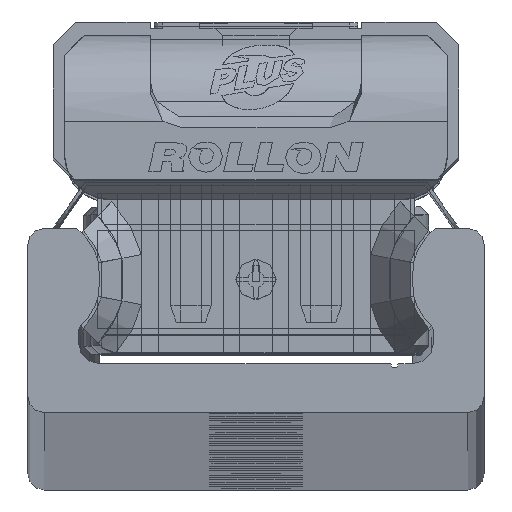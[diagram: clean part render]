
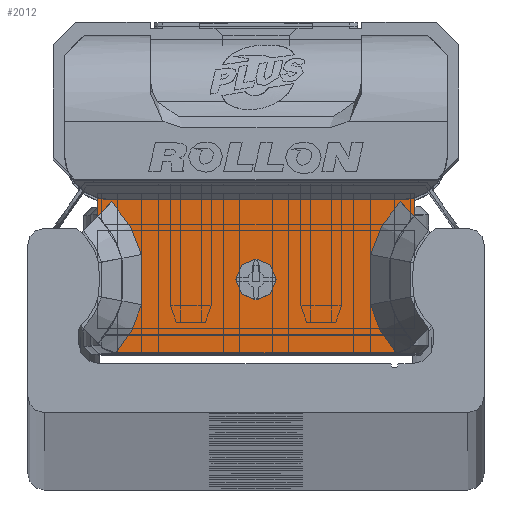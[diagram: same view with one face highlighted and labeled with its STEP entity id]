
A CAD part, top view. The second image highlights one B-rep face of the part: STEP entity #2012.
In plain terms, the highlighted planar face has unit normal (0, 0, 1) as drawn and (0, 0, -1) by its records, which use the part's own axes.
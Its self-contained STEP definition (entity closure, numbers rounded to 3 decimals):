
#2012 = ADVANCED_FACE( '', ( #4310, #4311 ), #4312, .F. );
#4310 = FACE_BOUND( '', #6803, .T. );
#4311 = FACE_OUTER_BOUND( '', #6804, .T. );
#4312 = PLANE( '', #6805 );
#6803 = EDGE_LOOP( '', ( #12165 ) );
#6804 = EDGE_LOOP( '', ( #12166, #12167, #12168, #12169, #12170, #12171, #12172, #12173, #12174, #12175, #12176, #12177, #12178, #12179 ) );
#6805 = AXIS2_PLACEMENT_3D( '', #12180, #12181, #12182 );
#12165 = ORIENTED_EDGE( '', *, *, #14686, .T. );
#12166 = ORIENTED_EDGE( '', *, *, #13447, .F. );
#12167 = ORIENTED_EDGE( '', *, *, #13148, .T. );
#12168 = ORIENTED_EDGE( '', *, *, #13653, .T. );
#12169 = ORIENTED_EDGE( '', *, *, #14190, .T. );
#12170 = ORIENTED_EDGE( '', *, *, #14344, .T. );
#12171 = ORIENTED_EDGE( '', *, *, #15259, .T. );
#12172 = ORIENTED_EDGE( '', *, *, #14087, .T. );
#12173 = ORIENTED_EDGE( '', *, *, #13676, .T. );
#12174 = ORIENTED_EDGE( '', *, *, #15141, .T. );
#12175 = ORIENTED_EDGE( '', *, *, #15074, .T. );
#12176 = ORIENTED_EDGE( '', *, *, #14236, .T. );
#12177 = ORIENTED_EDGE( '', *, *, #15054, .T. );
#12178 = ORIENTED_EDGE( '', *, *, #14155, .T. );
#12179 = ORIENTED_EDGE( '', *, *, #15221, .T. );
#12180 = CARTESIAN_POINT( '', ( 9.7, 4.89, -10.6 ) );
#12181 = DIRECTION( '', ( 0., 0., 1. ) );
#12182 = DIRECTION( '', ( 1., 0., 0. ) );
#13148 = EDGE_CURVE( '', #15467, #15465, #15468, .T. );
#13447 = EDGE_CURVE( '', #15467, #15993, #15994, .T. );
#13653 = EDGE_CURVE( '', #15465, #16358, #16360, .T. );
#13676 = EDGE_CURVE( '', #16397, #16395, #16398, .T. );
#14087 = EDGE_CURVE( '', #17065, #16397, #17066, .T. );
#14155 = EDGE_CURVE( '', #17170, #17171, #17172, .T. );
#14190 = EDGE_CURVE( '', #16358, #17223, #17225, .T. );
#14236 = EDGE_CURVE( '', #17290, #17298, #17300, .T. );
#14344 = EDGE_CURVE( '', #17223, #17449, #17450, .T. );
#14686 = EDGE_CURVE( '', #17950, #17950, #17951, .T. );
#15054 = EDGE_CURVE( '', #17298, #17170, #18434, .T. );
#15074 = EDGE_CURVE( '', #16583, #17290, #18458, .T. );
#15141 = EDGE_CURVE( '', #16395, #16583, #18538, .T. );
#15221 = EDGE_CURVE( '', #17171, #15993, #18626, .T. );
#15259 = EDGE_CURVE( '', #17449, #17065, #18671, .T. );
#15465 = VERTEX_POINT( '', #18897 );
#15467 = VERTEX_POINT( '', #18900 );
#15468 = CIRCLE( '', #18901, 2.8 );
#15993 = VERTEX_POINT( '', #19628 );
#15994 = LINE( '', #19629, #19630 );
#16358 = VERTEX_POINT( '', #20187 );
#16360 = LINE( '', #20190, #20191 );
#16395 = VERTEX_POINT( '', #20235 );
#16397 = VERTEX_POINT( '', #20238 );
#16398 = B_SPLINE_CURVE_WITH_KNOTS( '', 2, ( #20239, #20240, #20241 ), .UNSPECIFIED., .F., .F., ( 3, 3 ), ( 0., 1. ), .UNSPECIFIED. );
#16583 = VERTEX_POINT( '', #20505 );
#17065 = VERTEX_POINT( '', #21143 );
#17066 = B_SPLINE_CURVE_WITH_KNOTS( '', 2, ( #21144, #21145, #21146, #21147, #21148 ), .UNSPECIFIED., .F., .F., ( 3, 2, 3 ), ( 0., 0.5, 1. ), .UNSPECIFIED. );
#17170 = VERTEX_POINT( '', #21308 );
#17171 = VERTEX_POINT( '', #21309 );
#17172 = B_SPLINE_CURVE_WITH_KNOTS( '', 2, ( #21310, #21311, #21312 ), .UNSPECIFIED., .F., .F., ( 3, 3 ), ( 0., 1. ), .UNSPECIFIED. );
#17223 = VERTEX_POINT( '', #21378 );
#17225 = CIRCLE( '', #21381, 2.8 );
#17290 = VERTEX_POINT( '', #21459 );
#17298 = VERTEX_POINT( '', #21479 );
#17300 = B_SPLINE_CURVE_WITH_KNOTS( '', 2, ( #21482, #21483, #21484 ), .UNSPECIFIED., .F., .F., ( 3, 3 ), ( 0.1, 1. ), .UNSPECIFIED. );
#17449 = VERTEX_POINT( '', #21712 );
#17450 = LINE( '', #21713, #21714 );
#17950 = VERTEX_POINT( '', #22438 );
#17951 = CIRCLE( '', #22439, 1.25 );
#18434 = B_SPLINE_CURVE_WITH_KNOTS( '', 2, ( #23109, #23110, #23111 ), .UNSPECIFIED., .F., .F., ( 3, 3 ), ( 0., 1. ), .UNSPECIFIED. );
#18458 = LINE( '', #23140, #23141 );
#18538 = B_SPLINE_CURVE_WITH_KNOTS( '', 2, ( #23244, #23245, #23246 ), .UNSPECIFIED., .F., .F., ( 3, 3 ), ( 0., 1. ), .UNSPECIFIED. );
#18626 = LINE( '', #23366, #23367 );
#18671 = LINE( '', #23448, #23449 );
#18897 = CARTESIAN_POINT( '', ( -8.95, 4.51, -10.6 ) );
#18900 = CARTESIAN_POINT( '', ( -9.7, 4.612, -10.6 ) );
#18901 = AXIS2_PLACEMENT_3D( '', #23709, #23710, #23711 );
#19628 = CARTESIAN_POINT( '', ( -9.7, 3.494, -10.6 ) );
#19629 = CARTESIAN_POINT( '', ( -9.7, 4.89, -10.6 ) );
#19630 = VECTOR( '', #24117, 1000. );
#20187 = CARTESIAN_POINT( '', ( 8.95, 4.51, -10.6 ) );
#20190 = CARTESIAN_POINT( '', ( 9.7, 4.51, -10.6 ) );
#20191 = VECTOR( '', #24481, 1000. );
#20235 = CARTESIAN_POINT( '', ( 7.031, -1.944, -10.6 ) );
#20238 = CARTESIAN_POINT( '', ( 7.031, 1.144, -10.6 ) );
#20239 = CARTESIAN_POINT( '', ( 7.031, 1.144, -10.6 ) );
#20240 = CARTESIAN_POINT( '', ( 6.929, -0.4, -10.6 ) );
#20241 = CARTESIAN_POINT( '', ( 7.031, -1.944, -10.6 ) );
#20505 = CARTESIAN_POINT( '', ( 8.59, -4.893, -10.6 ) );
#21143 = CARTESIAN_POINT( '', ( 8.853, 4.366, -10.6 ) );
#21144 = CARTESIAN_POINT( '', ( 8.853, 4.366, -10.6 ) );
#21145 = CARTESIAN_POINT( '', ( 8.182, 3.708, -10.6 ) );
#21146 = CARTESIAN_POINT( '', ( 7.715, 2.883, -10.6 ) );
#21147 = CARTESIAN_POINT( '', ( 7.249, 2.058, -10.6 ) );
#21148 = CARTESIAN_POINT( '', ( 7.031, 1.144, -10.6 ) );
#21308 = CARTESIAN_POINT( '', ( -7.031, 1.144, -10.6 ) );
#21309 = CARTESIAN_POINT( '', ( -8.853, 4.366, -10.6 ) );
#21310 = CARTESIAN_POINT( '', ( -7.031, 1.144, -10.6 ) );
#21311 = CARTESIAN_POINT( '', ( -7.477, 3.018, -10.6 ) );
#21312 = CARTESIAN_POINT( '', ( -8.853, 4.366, -10.6 ) );
#21378 = CARTESIAN_POINT( '', ( 9.7, 4.612, -10.6 ) );
#21381 = AXIS2_PLACEMENT_3D( '', #25200, #25201, #25202 );
#21459 = CARTESIAN_POINT( '', ( -8.59, -4.893, -10.6 ) );
#21479 = CARTESIAN_POINT( '', ( -7.031, -1.944, -10.6 ) );
#21482 = CARTESIAN_POINT( '', ( -8.587, -4.89, -10.6 ) );
#21483 = CARTESIAN_POINT( '', ( -7.432, -3.63, -10.6 ) );
#21484 = CARTESIAN_POINT( '', ( -7.031, -1.944, -10.6 ) );
#21712 = CARTESIAN_POINT( '', ( 9.7, 3.497, -10.6 ) );
#21713 = CARTESIAN_POINT( '', ( 9.7, 4.89, -10.6 ) );
#21714 = VECTOR( '', #25388, 1000. );
#22438 = CARTESIAN_POINT( '', ( 1.25, -0.39, -10.6 ) );
#22439 = AXIS2_PLACEMENT_3D( '', #25839, #25840, #25841 );
#23109 = CARTESIAN_POINT( '', ( -7.031, -1.944, -10.6 ) );
#23110 = CARTESIAN_POINT( '', ( -6.929, -0.4, -10.6 ) );
#23111 = CARTESIAN_POINT( '', ( -7.031, 1.144, -10.6 ) );
#23140 = CARTESIAN_POINT( '', ( 9.7, -4.89, -10.6 ) );
#23141 = VECTOR( '', #26247, 1000. );
#23244 = CARTESIAN_POINT( '', ( 7.031, -1.944, -10.6 ) );
#23245 = CARTESIAN_POINT( '', ( 7.429, -3.615, -10.6 ) );
#23246 = CARTESIAN_POINT( '', ( 8.588, -4.89, -10.6 ) );
#23366 = CARTESIAN_POINT( '', ( -8.853, 4.366, -10.6 ) );
#23367 = VECTOR( '', #26390, 1000. );
#23448 = CARTESIAN_POINT( '', ( 9.7, 3.501, -10.6 ) );
#23449 = VECTOR( '', #26417, 1000. );
#23709 = CARTESIAN_POINT( '', ( -8.95, 7.31, -10.6 ) );
#23710 = DIRECTION( '', ( 0., 0., 1. ) );
#23711 = DIRECTION( '', ( 1., 0., 0. ) );
#24117 = DIRECTION( '', ( 0., -1., 0. ) );
#24481 = DIRECTION( '', ( 1., 0., 0. ) );
#25200 = CARTESIAN_POINT( '', ( 8.95, 7.31, -10.6 ) );
#25201 = DIRECTION( '', ( 0., 0., 1. ) );
#25202 = DIRECTION( '', ( 1., 0., 0. ) );
#25388 = DIRECTION( '', ( 0., -1., 0. ) );
#25839 = CARTESIAN_POINT( '', ( 0., -0.39, -10.6 ) );
#25840 = DIRECTION( '', ( 0., 0., 1. ) );
#25841 = DIRECTION( '', ( 1., 0., 0. ) );
#26247 = DIRECTION( '', ( -1., 0., 0. ) );
#26390 = DIRECTION( '', ( -0.7, -0.714, 0. ) );
#26417 = DIRECTION( '', ( -0.7, 0.714, 0. ) );
